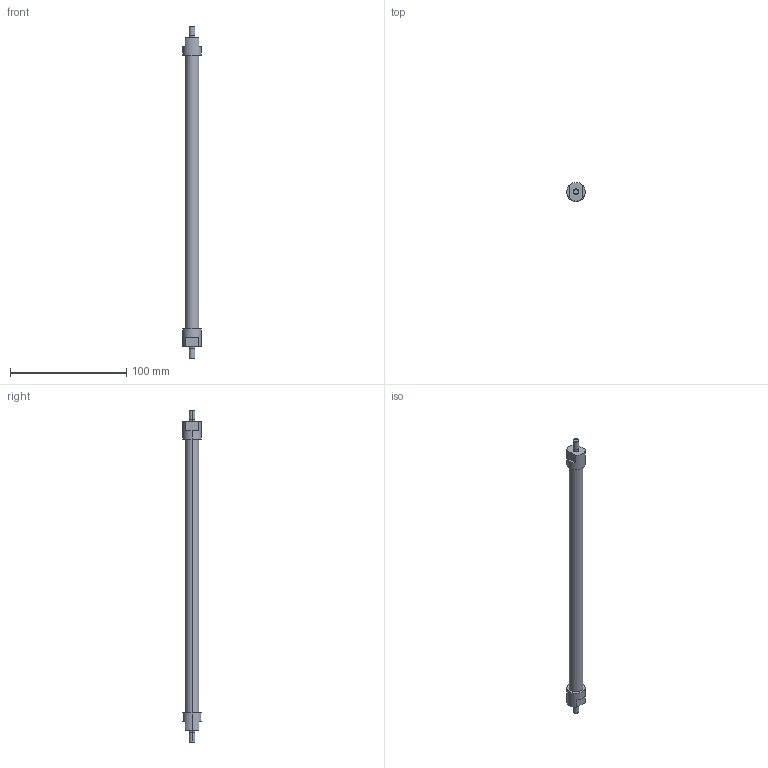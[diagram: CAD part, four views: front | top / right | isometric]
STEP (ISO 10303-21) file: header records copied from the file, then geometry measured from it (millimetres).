
FILE_DESCRIPTION(('STEP AP214'),'1');
FILE_NAME('ETT-R025N275.stp','2015-02-04T08:19:12',(' '),(' '),'Spatial InterOp 3D',' ',' ');
FILE_SCHEMA(('automotive_design'));
Length unit declared in the file: metre
Products named in the file (3): 1; 2; 3
Bounding box: 16 x 16 x 286 mm (x, y, z)
Volume: 32651.3 mm3; surface area: 11486 mm2
Topology: 1 solids, 7 shells, 30 faces, 81 edges, 63 vertices
Faces by surface type: plane 16, cylinder 14
Entity records: 1295 total; most frequent: DIRECTION 194, CARTESIAN_POINT 177, ORIENTED_EDGE 138, EDGE_CURVE 81, AXIS2_PLACEMENT_3D 80, VERTEX_POINT 63, CIRCLE 47, EDGE_LOOP 36
